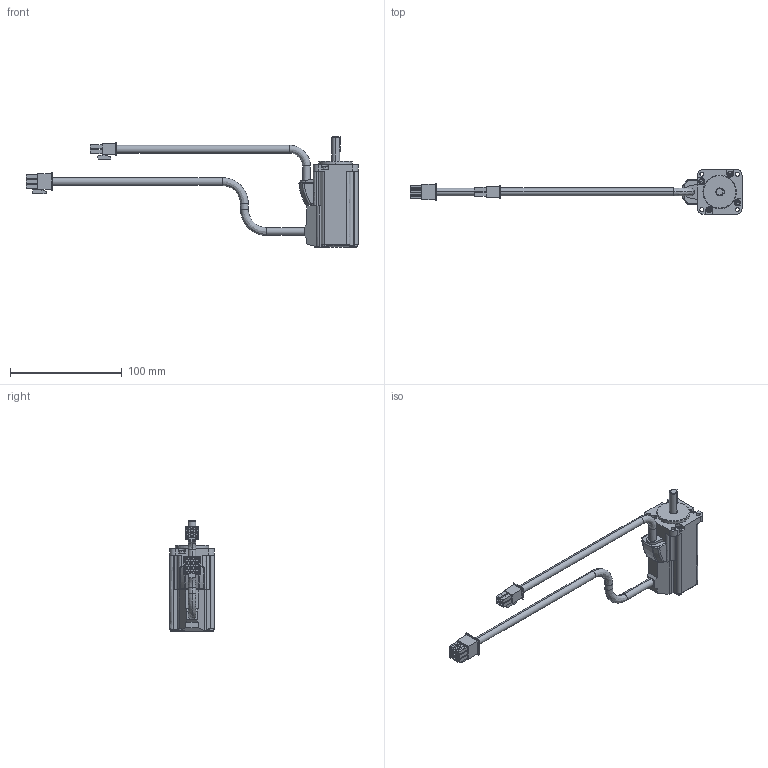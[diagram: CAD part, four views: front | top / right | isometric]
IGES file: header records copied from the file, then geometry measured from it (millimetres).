
Start section:  PTC IGES file: RSMZ-A3BA3xS.igs
Global section: file name: RSMZ-A3BA3xS.igs; native system: Pro/ENGINEER by Parametric Technology Corporation; preprocessor: 2004440; author: Administrator; organization: Unknown; date: 070904.190253; units: millimetre
Bounding box: 297.7 x 40 x 99.1 mm (x, y, z)
Volume: 135057.4 mm3; surface area: 31700.8 mm2
Topology: 1 solids, 1 shells, 463 faces, 1171 edges, 759 vertices
Faces by surface type: bspline 333, revolution 130
